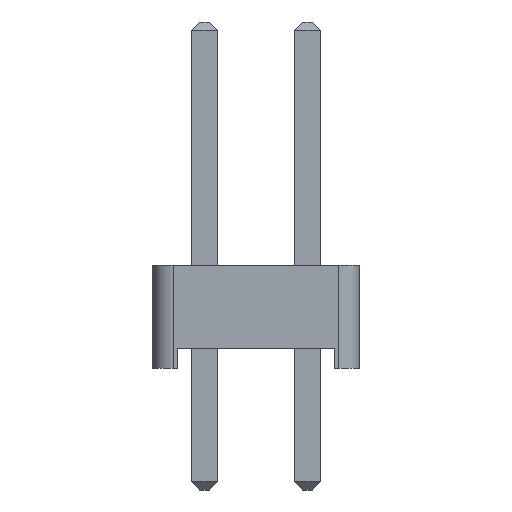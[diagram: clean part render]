
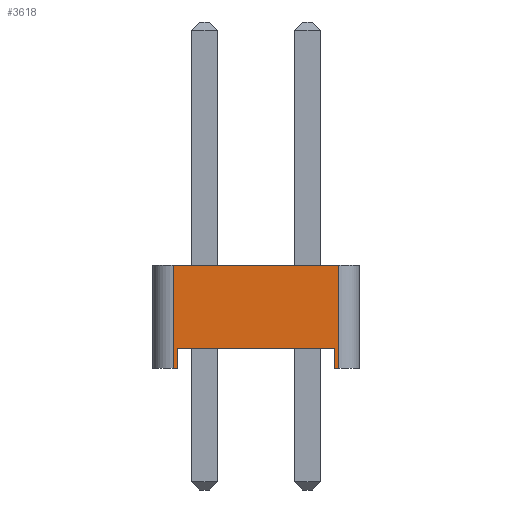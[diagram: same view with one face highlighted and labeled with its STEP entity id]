
A CAD part, left-side view. The second image highlights one B-rep face of the part: STEP entity #3618.
In plain terms, the highlighted planar face has unit normal (-1, 0, 0).
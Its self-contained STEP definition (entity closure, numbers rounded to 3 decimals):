
#3358 = VERTEX_POINT('',#3359);
#3359 = CARTESIAN_POINT('',(-1.27,2.04,0.));
#3367 = PLANE('',#3368);
#3368 = AXIS2_PLACEMENT_3D('',#3369,#3370,#3371);
#3369 = CARTESIAN_POINT('',(0.,0.,0.));
#3370 = DIRECTION('',(-0.,-0.,-1.));
#3371 = DIRECTION('',(-1.,0.,0.));
#3383 = CYLINDRICAL_SURFACE('',#3384,0.5);
#3384 = AXIS2_PLACEMENT_3D('',#3385,#3386,#3387);
#3385 = CARTESIAN_POINT('',(-0.77,2.04,0.));
#3386 = DIRECTION('',(0.,0.,1.));
#3387 = DIRECTION('',(0.,1.,0.));
#3485 = VERTEX_POINT('',#3486);
#3486 = CARTESIAN_POINT('',(-1.27,1.94,0.));
#3500 = PLANE('',#3501);
#3501 = AXIS2_PLACEMENT_3D('',#3502,#3503,#3504);
#3502 = CARTESIAN_POINT('',(1.27,1.94,0.));
#3503 = DIRECTION('',(0.,-1.,0.));
#3504 = DIRECTION('',(-1.,0.,0.));
#3512 = EDGE_CURVE('',#3485,#3358,#3513,.T.);
#3513 = SURFACE_CURVE('',#3514,(#3518,#3525),.PCURVE_S1.);
#3514 = LINE('',#3515,#3516);
#3515 = CARTESIAN_POINT('',(-1.27,-2.54,0.));
#3516 = VECTOR('',#3517,1.);
#3517 = DIRECTION('',(0.,1.,0.));
#3518 = PCURVE('',#3367,#3519);
#3519 = DEFINITIONAL_REPRESENTATION('',(#3520),#3524);
#3520 = LINE('',#3521,#3522);
#3521 = CARTESIAN_POINT('',(1.27,-2.54));
#3522 = VECTOR('',#3523,1.);
#3523 = DIRECTION('',(0.,1.));
#3524 = ( GEOMETRIC_REPRESENTATION_CONTEXT(2) 
PARAMETRIC_REPRESENTATION_CONTEXT() REPRESENTATION_CONTEXT('2D SPACE',''
  ) );
#3525 = PCURVE('',#3526,#3531);
#3526 = PLANE('',#3527);
#3527 = AXIS2_PLACEMENT_3D('',#3528,#3529,#3530);
#3528 = CARTESIAN_POINT('',(-1.27,-2.54,0.));
#3529 = DIRECTION('',(-1.,0.,0.));
#3530 = DIRECTION('',(0.,1.,0.));
#3531 = DEFINITIONAL_REPRESENTATION('',(#3532),#3536);
#3532 = LINE('',#3533,#3534);
#3533 = CARTESIAN_POINT('',(0.,0.));
#3534 = VECTOR('',#3535,1.);
#3535 = DIRECTION('',(1.,0.));
#3536 = ( GEOMETRIC_REPRESENTATION_CONTEXT(2) 
PARAMETRIC_REPRESENTATION_CONTEXT() REPRESENTATION_CONTEXT('2D SPACE',''
  ) );
#3542 = EDGE_CURVE('',#3358,#3543,#3545,.T.);
#3543 = VERTEX_POINT('',#3544);
#3544 = CARTESIAN_POINT('',(-1.27,2.04,2.54));
#3545 = SURFACE_CURVE('',#3546,(#3550,#3557),.PCURVE_S1.);
#3546 = LINE('',#3547,#3548);
#3547 = CARTESIAN_POINT('',(-1.27,2.04,0.));
#3548 = VECTOR('',#3549,1.);
#3549 = DIRECTION('',(0.,0.,1.));
#3550 = PCURVE('',#3383,#3551);
#3551 = DEFINITIONAL_REPRESENTATION('',(#3552),#3556);
#3552 = LINE('',#3553,#3554);
#3553 = CARTESIAN_POINT('',(1.571,0.));
#3554 = VECTOR('',#3555,1.);
#3555 = DIRECTION('',(0.,1.));
#3556 = ( GEOMETRIC_REPRESENTATION_CONTEXT(2) 
PARAMETRIC_REPRESENTATION_CONTEXT() REPRESENTATION_CONTEXT('2D SPACE',''
  ) );
#3557 = PCURVE('',#3526,#3558);
#3558 = DEFINITIONAL_REPRESENTATION('',(#3559),#3563);
#3559 = LINE('',#3560,#3561);
#3560 = CARTESIAN_POINT('',(4.58,0.));
#3561 = VECTOR('',#3562,1.);
#3562 = DIRECTION('',(0.,-1.));
#3563 = ( GEOMETRIC_REPRESENTATION_CONTEXT(2) 
PARAMETRIC_REPRESENTATION_CONTEXT() REPRESENTATION_CONTEXT('2D SPACE',''
  ) );
#3582 = PLANE('',#3583);
#3583 = AXIS2_PLACEMENT_3D('',#3584,#3585,#3586);
#3584 = CARTESIAN_POINT('',(0.,0.,2.54));
#3585 = DIRECTION('',(-0.,-0.,-1.));
#3586 = DIRECTION('',(-1.,0.,0.));
#3618 = ADVANCED_FACE('',(#3619),#3526,.T.);
#3619 = FACE_BOUND('',#3620,.T.);
#3620 = EDGE_LOOP('',(#3621,#3651,#3679,#3700,#3701,#3702,#3725,#3753));
#3621 = ORIENTED_EDGE('',*,*,#3622,.F.);
#3622 = EDGE_CURVE('',#3623,#3625,#3627,.T.);
#3623 = VERTEX_POINT('',#3624);
#3624 = CARTESIAN_POINT('',(-1.27,-2.04,0.));
#3625 = VERTEX_POINT('',#3626);
#3626 = CARTESIAN_POINT('',(-1.27,-1.94,0.));
#3627 = SURFACE_CURVE('',#3628,(#3632,#3639),.PCURVE_S1.);
#3628 = LINE('',#3629,#3630);
#3629 = CARTESIAN_POINT('',(-1.27,-2.54,0.));
#3630 = VECTOR('',#3631,1.);
#3631 = DIRECTION('',(0.,1.,0.));
#3632 = PCURVE('',#3526,#3633);
#3633 = DEFINITIONAL_REPRESENTATION('',(#3634),#3638);
#3634 = LINE('',#3635,#3636);
#3635 = CARTESIAN_POINT('',(0.,0.));
#3636 = VECTOR('',#3637,1.);
#3637 = DIRECTION('',(1.,0.));
#3638 = ( GEOMETRIC_REPRESENTATION_CONTEXT(2) 
PARAMETRIC_REPRESENTATION_CONTEXT() REPRESENTATION_CONTEXT('2D SPACE',''
  ) );
#3639 = PCURVE('',#3640,#3645);
#3640 = PLANE('',#3641);
#3641 = AXIS2_PLACEMENT_3D('',#3642,#3643,#3644);
#3642 = CARTESIAN_POINT('',(0.,0.,0.));
#3643 = DIRECTION('',(-0.,-0.,-1.));
#3644 = DIRECTION('',(-1.,0.,0.));
#3645 = DEFINITIONAL_REPRESENTATION('',(#3646),#3650);
#3646 = LINE('',#3647,#3648);
#3647 = CARTESIAN_POINT('',(1.27,-2.54));
#3648 = VECTOR('',#3649,1.);
#3649 = DIRECTION('',(0.,1.));
#3650 = ( GEOMETRIC_REPRESENTATION_CONTEXT(2) 
PARAMETRIC_REPRESENTATION_CONTEXT() REPRESENTATION_CONTEXT('2D SPACE',''
  ) );
#3651 = ORIENTED_EDGE('',*,*,#3652,.T.);
#3652 = EDGE_CURVE('',#3623,#3653,#3655,.T.);
#3653 = VERTEX_POINT('',#3654);
#3654 = CARTESIAN_POINT('',(-1.27,-2.04,2.54));
#3655 = SURFACE_CURVE('',#3656,(#3660,#3667),.PCURVE_S1.);
#3656 = LINE('',#3657,#3658);
#3657 = CARTESIAN_POINT('',(-1.27,-2.04,0.));
#3658 = VECTOR('',#3659,1.);
#3659 = DIRECTION('',(0.,0.,1.));
#3660 = PCURVE('',#3526,#3661);
#3661 = DEFINITIONAL_REPRESENTATION('',(#3662),#3666);
#3662 = LINE('',#3663,#3664);
#3663 = CARTESIAN_POINT('',(0.5,0.));
#3664 = VECTOR('',#3665,1.);
#3665 = DIRECTION('',(0.,-1.));
#3666 = ( GEOMETRIC_REPRESENTATION_CONTEXT(2) 
PARAMETRIC_REPRESENTATION_CONTEXT() REPRESENTATION_CONTEXT('2D SPACE',''
  ) );
#3667 = PCURVE('',#3668,#3673);
#3668 = CYLINDRICAL_SURFACE('',#3669,0.5);
#3669 = AXIS2_PLACEMENT_3D('',#3670,#3671,#3672);
#3670 = CARTESIAN_POINT('',(-0.77,-2.04,0.));
#3671 = DIRECTION('',(0.,0.,1.));
#3672 = DIRECTION('',(0.,-1.,0.));
#3673 = DEFINITIONAL_REPRESENTATION('',(#3674),#3678);
#3674 = LINE('',#3675,#3676);
#3675 = CARTESIAN_POINT('',(-1.571,0.));
#3676 = VECTOR('',#3677,1.);
#3677 = DIRECTION('',(-0.,1.));
#3678 = ( GEOMETRIC_REPRESENTATION_CONTEXT(2) 
PARAMETRIC_REPRESENTATION_CONTEXT() REPRESENTATION_CONTEXT('2D SPACE',''
  ) );
#3679 = ORIENTED_EDGE('',*,*,#3680,.T.);
#3680 = EDGE_CURVE('',#3653,#3543,#3681,.T.);
#3681 = SURFACE_CURVE('',#3682,(#3686,#3693),.PCURVE_S1.);
#3682 = LINE('',#3683,#3684);
#3683 = CARTESIAN_POINT('',(-1.27,-2.54,2.54));
#3684 = VECTOR('',#3685,1.);
#3685 = DIRECTION('',(0.,1.,0.));
#3686 = PCURVE('',#3526,#3687);
#3687 = DEFINITIONAL_REPRESENTATION('',(#3688),#3692);
#3688 = LINE('',#3689,#3690);
#3689 = CARTESIAN_POINT('',(0.,-2.54));
#3690 = VECTOR('',#3691,1.);
#3691 = DIRECTION('',(1.,0.));
#3692 = ( GEOMETRIC_REPRESENTATION_CONTEXT(2) 
PARAMETRIC_REPRESENTATION_CONTEXT() REPRESENTATION_CONTEXT('2D SPACE',''
  ) );
#3693 = PCURVE('',#3582,#3694);
#3694 = DEFINITIONAL_REPRESENTATION('',(#3695),#3699);
#3695 = LINE('',#3696,#3697);
#3696 = CARTESIAN_POINT('',(1.27,-2.54));
#3697 = VECTOR('',#3698,1.);
#3698 = DIRECTION('',(0.,1.));
#3699 = ( GEOMETRIC_REPRESENTATION_CONTEXT(2) 
PARAMETRIC_REPRESENTATION_CONTEXT() REPRESENTATION_CONTEXT('2D SPACE',''
  ) );
#3700 = ORIENTED_EDGE('',*,*,#3542,.F.);
#3701 = ORIENTED_EDGE('',*,*,#3512,.F.);
#3702 = ORIENTED_EDGE('',*,*,#3703,.T.);
#3703 = EDGE_CURVE('',#3485,#3704,#3706,.T.);
#3704 = VERTEX_POINT('',#3705);
#3705 = CARTESIAN_POINT('',(-1.27,1.94,0.5));
#3706 = SURFACE_CURVE('',#3707,(#3711,#3718),.PCURVE_S1.);
#3707 = LINE('',#3708,#3709);
#3708 = CARTESIAN_POINT('',(-1.27,1.94,0.));
#3709 = VECTOR('',#3710,1.);
#3710 = DIRECTION('',(0.,0.,1.));
#3711 = PCURVE('',#3526,#3712);
#3712 = DEFINITIONAL_REPRESENTATION('',(#3713),#3717);
#3713 = LINE('',#3714,#3715);
#3714 = CARTESIAN_POINT('',(4.48,0.));
#3715 = VECTOR('',#3716,1.);
#3716 = DIRECTION('',(0.,-1.));
#3717 = ( GEOMETRIC_REPRESENTATION_CONTEXT(2) 
PARAMETRIC_REPRESENTATION_CONTEXT() REPRESENTATION_CONTEXT('2D SPACE',''
  ) );
#3718 = PCURVE('',#3500,#3719);
#3719 = DEFINITIONAL_REPRESENTATION('',(#3720),#3724);
#3720 = LINE('',#3721,#3722);
#3721 = CARTESIAN_POINT('',(2.54,0.));
#3722 = VECTOR('',#3723,1.);
#3723 = DIRECTION('',(0.,-1.));
#3724 = ( GEOMETRIC_REPRESENTATION_CONTEXT(2) 
PARAMETRIC_REPRESENTATION_CONTEXT() REPRESENTATION_CONTEXT('2D SPACE',''
  ) );
#3725 = ORIENTED_EDGE('',*,*,#3726,.T.);
#3726 = EDGE_CURVE('',#3704,#3727,#3729,.T.);
#3727 = VERTEX_POINT('',#3728);
#3728 = CARTESIAN_POINT('',(-1.27,-1.94,0.5));
#3729 = SURFACE_CURVE('',#3730,(#3734,#3741),.PCURVE_S1.);
#3730 = LINE('',#3731,#3732);
#3731 = CARTESIAN_POINT('',(-1.27,1.94,0.5));
#3732 = VECTOR('',#3733,1.);
#3733 = DIRECTION('',(0.,-1.,0.));
#3734 = PCURVE('',#3526,#3735);
#3735 = DEFINITIONAL_REPRESENTATION('',(#3736),#3740);
#3736 = LINE('',#3737,#3738);
#3737 = CARTESIAN_POINT('',(4.48,-0.5));
#3738 = VECTOR('',#3739,1.);
#3739 = DIRECTION('',(-1.,0.));
#3740 = ( GEOMETRIC_REPRESENTATION_CONTEXT(2) 
PARAMETRIC_REPRESENTATION_CONTEXT() REPRESENTATION_CONTEXT('2D SPACE',''
  ) );
#3741 = PCURVE('',#3742,#3747);
#3742 = PLANE('',#3743);
#3743 = AXIS2_PLACEMENT_3D('',#3744,#3745,#3746);
#3744 = CARTESIAN_POINT('',(0.,0.,0.5));
#3745 = DIRECTION('',(0.,0.,1.));
#3746 = DIRECTION('',(1.,0.,0.));
#3747 = DEFINITIONAL_REPRESENTATION('',(#3748),#3752);
#3748 = LINE('',#3749,#3750);
#3749 = CARTESIAN_POINT('',(-1.27,1.94));
#3750 = VECTOR('',#3751,1.);
#3751 = DIRECTION('',(0.,-1.));
#3752 = ( GEOMETRIC_REPRESENTATION_CONTEXT(2) 
PARAMETRIC_REPRESENTATION_CONTEXT() REPRESENTATION_CONTEXT('2D SPACE',''
  ) );
#3753 = ORIENTED_EDGE('',*,*,#3754,.F.);
#3754 = EDGE_CURVE('',#3625,#3727,#3755,.T.);
#3755 = SURFACE_CURVE('',#3756,(#3760,#3767),.PCURVE_S1.);
#3756 = LINE('',#3757,#3758);
#3757 = CARTESIAN_POINT('',(-1.27,-1.94,0.));
#3758 = VECTOR('',#3759,1.);
#3759 = DIRECTION('',(0.,0.,1.));
#3760 = PCURVE('',#3526,#3761);
#3761 = DEFINITIONAL_REPRESENTATION('',(#3762),#3766);
#3762 = LINE('',#3763,#3764);
#3763 = CARTESIAN_POINT('',(0.6,0.));
#3764 = VECTOR('',#3765,1.);
#3765 = DIRECTION('',(0.,-1.));
#3766 = ( GEOMETRIC_REPRESENTATION_CONTEXT(2) 
PARAMETRIC_REPRESENTATION_CONTEXT() REPRESENTATION_CONTEXT('2D SPACE',''
  ) );
#3767 = PCURVE('',#3768,#3773);
#3768 = PLANE('',#3769);
#3769 = AXIS2_PLACEMENT_3D('',#3770,#3771,#3772);
#3770 = CARTESIAN_POINT('',(-1.27,-1.94,0.));
#3771 = DIRECTION('',(0.,1.,0.));
#3772 = DIRECTION('',(1.,0.,0.));
#3773 = DEFINITIONAL_REPRESENTATION('',(#3774),#3778);
#3774 = LINE('',#3775,#3776);
#3775 = CARTESIAN_POINT('',(0.,0.));
#3776 = VECTOR('',#3777,1.);
#3777 = DIRECTION('',(0.,-1.));
#3778 = ( GEOMETRIC_REPRESENTATION_CONTEXT(2) 
PARAMETRIC_REPRESENTATION_CONTEXT() REPRESENTATION_CONTEXT('2D SPACE',''
  ) );
